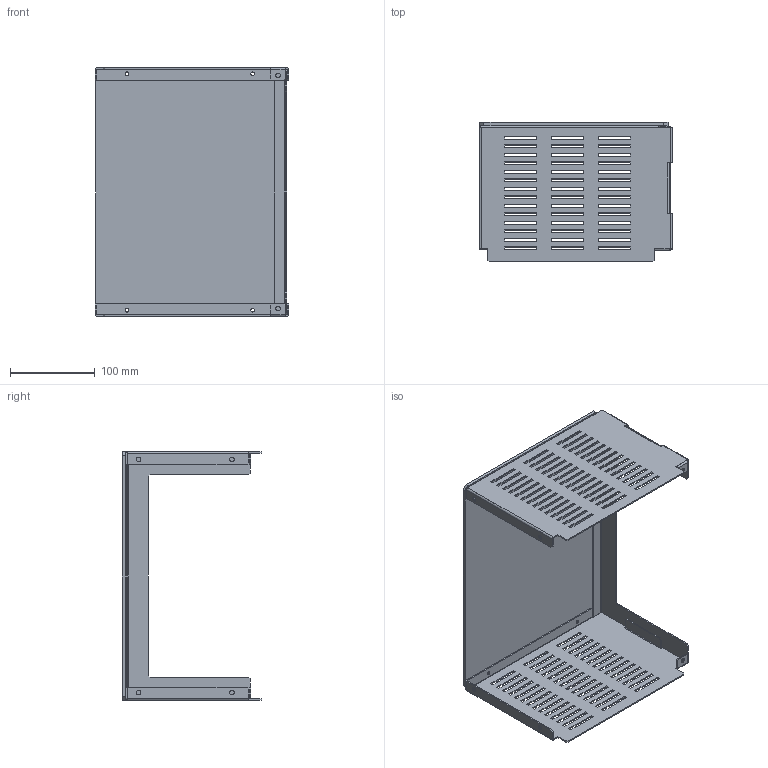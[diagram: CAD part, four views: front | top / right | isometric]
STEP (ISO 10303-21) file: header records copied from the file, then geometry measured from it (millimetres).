
FILE_DESCRIPTION(('CAx-IF Rec.Pracs.---Model Styling and Organization---1.2---2011-12-15','CAx-IF Rec.Pracs.---Geometric and Assembly Validation Properties---4.1---2014-06-16','CAx-IF Rec.Pracs.---PMI Polyline Presentation---2.0---2013-05-24'),'2;1');
FILE_NAME('R5M2W6MRB4.stp','2021-05-05T13:09:25+03:00',(''),(''),'STEP Interface 4.4 by CT CoreTechnologie','3D_Evolution4.4 by CT CoreTechnologie','');
FILE_SCHEMA(('AUTOMOTIVE_DESIGN { 1 0 10303 214 1 1 1 1 }'));
Length unit declared in the file: millimetre
Products named in the file (5): R5M2W6MRB4; RB.1469.00.00.0_-00; RB.1461.00.00.0_-04; RB.1462.00.00.0_-04; RB.1469.00.00.0_-01
Assembly tree (4 placements, depth 2):
  R5M2W6MRB4
    RB.1469.00.00.0_-00
    RB.1461.00.00.0_-04
    RB.1462.00.00.0_-04
    RB.1469.00.00.0_-01
Bounding box: 228 x 164 x 293 mm (x, y, z)
Surface area: 329002.3 mm2 (no closed solid volume)
Topology: 0 solids, 4 shells, 544 faces, 1552 edges, 1016 vertices
Faces by surface type: plane 488, cylinder 54, bspline 2
Entity records: 18067 total; most frequent: CARTESIAN_POINT 3220, ORIENTED_EDGE 3104, DIRECTION 2751, EDGE_CURVE 1552, VECTOR 1441, LINE 1441, VERTEX_POINT 1016, EDGE_LOOP 740
